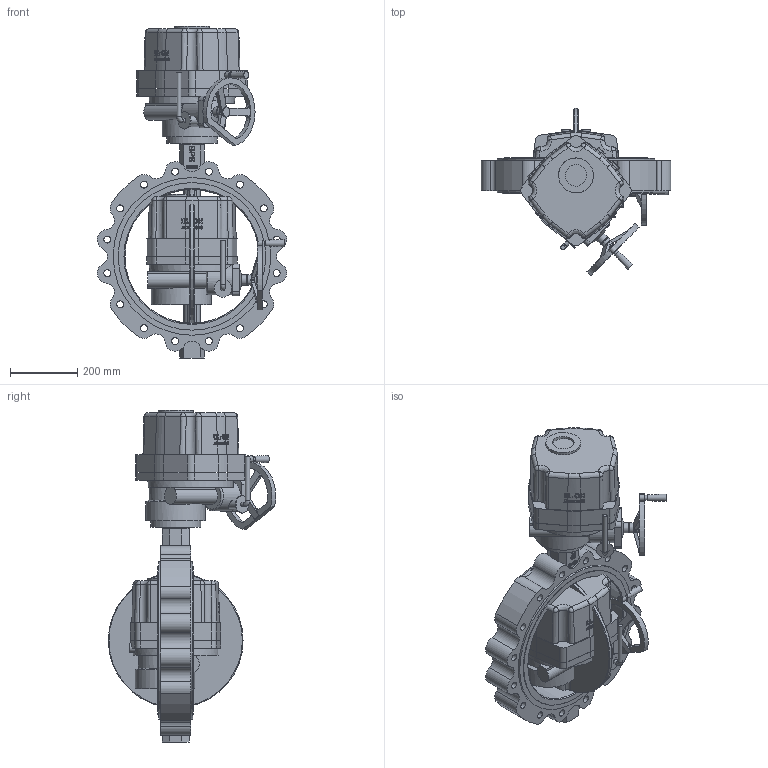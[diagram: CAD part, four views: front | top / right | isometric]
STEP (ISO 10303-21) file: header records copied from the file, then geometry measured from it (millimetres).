
FILE_DESCRIPTION( ( 'Unknown' ), '1' );
FILE_NAME( 'R:/ECCUA/ROOTSI BPS 3D vidinad/Poordklapid Lug type/Butterfly valve(lug) with electric actuator BPS/STEP formaat/BPS 2313400E(R) butterfly valve DN400.stp', 'Unknown', ( 'Unknown' ), ( 'Unknown' ), 'PSStep 10.1', 'Unknown', ' ' );
FILE_SCHEMA( ( 'AUTOMOTIVE_DESIGN { 1 0 10303 214 1 1 1 1 }' ) );
Length unit declared in the file: millimetre
Products named in the file (3): Assem1; BPS 8005800 electric actuator DN400; Butterfly valve lug type DN400 PN10 BPS
Bounding box: 565 x 499.39 x 990 mm (x, y, z)
Volume: 59617212.3 mm3; surface area: 3175400.1 mm2
Topology: 4 solids, 4 shells, 1058 faces, 2764 edges, 1800 vertices
Faces by surface type: plane 358, cylinder 330, bspline 134, cone 100, extrusion 98, torus 22, sphere 16
Full cylindrical faces by diameter (mm): 10.106 x16, 13 x4, 13.835 x16, 14 x8, 15 x2, 18 x2, 20.752 x32, 25 x4, 27 x4, 30 x4, 45 x2, 52 x2, 64 x2, 104 x2, 150 x2, 159 x2, 178 x2, 400 x2, 440 x4, 470 x4
Entity records: 30138 total; most frequent: CARTESIAN_POINT 14116, ORIENTED_EDGE 2494, DIRECTION 2086, EDGE_CURVE 1247, VERTEX_POINT 862, AXIS2_PLACEMENT_3D 805, EDGE_LOOP 713, FACE_OUTER_BOUND 596
